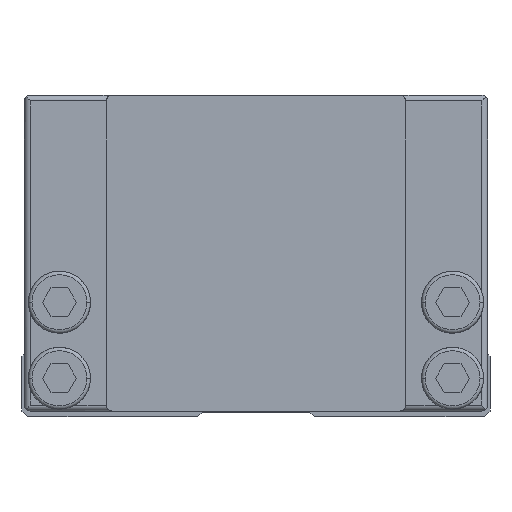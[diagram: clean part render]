
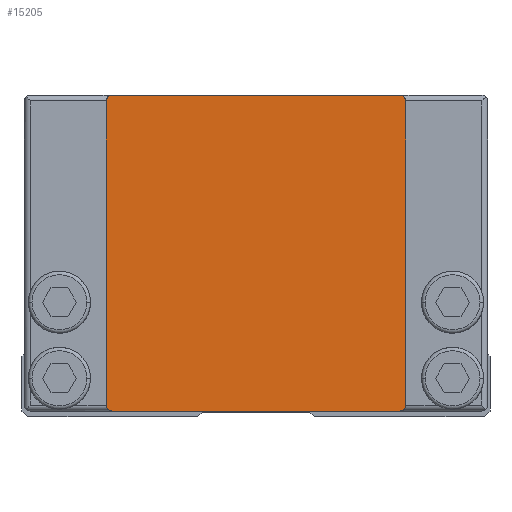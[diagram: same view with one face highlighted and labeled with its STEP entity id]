
A CAD part, front view. The second image highlights one B-rep face of the part: STEP entity #15205.
In plain terms, the highlighted planar face has unit normal (0, -1, 0).
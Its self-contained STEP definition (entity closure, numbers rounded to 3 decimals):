
#5735=VERTEX_POINT('',#16909);
#6343=EDGE_CURVE('',#9439,#7209,#17580,.T.);
#6471=EDGE_CURVE('',#13197,#9789,#17726,.T.);
#7153=VERTEX_POINT('',#18483);
#7209=VERTEX_POINT('',#18548);
#7341=EDGE_CURVE('',#9789,#9363,#18697,.T.);
#7923=EDGE_CURVE('',#7209,#11765,#19348,.T.);
#9191=EDGE_CURVE('',#11765,#7153,#20738,.T.);
#9363=VERTEX_POINT('',#20922);
#9439=VERTEX_POINT('',#21006);
#9789=VERTEX_POINT('',#21388);
#11765=VERTEX_POINT('',#23570);
#12249=EDGE_CURVE('',#5735,#13197,#24121,.T.);
#13197=VERTEX_POINT('',#25171);
#13445=EDGE_CURVE('',#9363,#9439,#25443,.T.);
#13761=EDGE_CURVE('',#7153,#5735,#25786,.T.);
#15205=ADVANCED_FACE('',(#27361),#27362,.T.);
#16909=CARTESIAN_POINT('',(12.8,0.0,1.0));
#17580=CIRCLE('',#30484,0.5);
#17726=LINE('',#30671,#30672);
#18483=CARTESIAN_POINT('',(12.8,0.0,27.0));
#18548=CARTESIAN_POINT('',(-12.3,0.0,27.5));
#18697=CIRCLE('',#32048,0.5);
#19348=LINE('',#32962,#32963);
#20738=CIRCLE('',#34937,0.5);
#20922=CARTESIAN_POINT('',(-12.8,0.0,1.0));
#21006=CARTESIAN_POINT('',(-12.8,0.0,27.0));
#21388=CARTESIAN_POINT('',(-12.3,0.0,0.5));
#23570=CARTESIAN_POINT('',(12.3,0.0,27.5));
#24121=CIRCLE('',#40000,0.5);
#25171=CARTESIAN_POINT('',(12.3,0.0,0.5));
#25443=LINE('',#41955,#41956);
#25786=LINE('',#42502,#42503);
#27361=FACE_OUTER_BOUND('',#44710,.T.);
#27362=PLANE('',#44711);
#30484=AXIS2_PLACEMENT_3D('',#47984,#47985,#47986);
#30671=CARTESIAN_POINT('',(-12.3,0.0,0.5));
#30672=VECTOR('',#48206,1.0);
#32048=AXIS2_PLACEMENT_3D('',#49387,#49388,#49389);
#32962=CARTESIAN_POINT('',(12.3,0.0,27.5));
#32963=VECTOR('',#50191,1.0);
#34937=AXIS2_PLACEMENT_3D('',#51748,#51749,#51750);
#40000=AXIS2_PLACEMENT_3D('',#55524,#55525,#55526);
#41955=CARTESIAN_POINT('',(-12.8,0.0,27.0));
#41956=VECTOR('',#57023,1.0);
#42502=CARTESIAN_POINT('',(12.8,0.0,1.0));
#42503=VECTOR('',#57366,1.0);
#44710=EDGE_LOOP('',(#59046,#59047,#59048,#59049,#59050,#59051,#59052,#59053));
#44711=AXIS2_PLACEMENT_3D('',#59054,#59055,#59056);
#47984=CARTESIAN_POINT('',(-12.3,0.0,27.0));
#47985=DIRECTION('',(0.0,1.0,-0.0));
#47986=DIRECTION('',(0.,0.0,1.0));
#48206=DIRECTION('',(-1.0,0.0,-0.0));
#49387=CARTESIAN_POINT('',(-12.3,0.0,1.));
#49388=DIRECTION('',(0.0,1.0,-0.0));
#49389=DIRECTION('',(-1.0,0.0,0.));
#50191=DIRECTION('',(1.0,0.0,0.0));
#51748=CARTESIAN_POINT('',(12.3,0.0,27.0));
#51749=DIRECTION('',(-0.0,1.0,0.0));
#51750=DIRECTION('',(1.0,0.0,0.));
#55524=CARTESIAN_POINT('',(12.3,0.0,1.));
#55525=DIRECTION('',(-0.0,1.0,0.0));
#55526=DIRECTION('',(0.0,0.0,-1.0));
#57023=DIRECTION('',(0.0,0.0,1.0));
#57366=DIRECTION('',(-0.0,0.0,-1.0));
#59046=ORIENTED_EDGE('',*,*,#13445,.F.);
#59047=ORIENTED_EDGE('',*,*,#7341,.F.);
#59048=ORIENTED_EDGE('',*,*,#6471,.F.);
#59049=ORIENTED_EDGE('',*,*,#12249,.F.);
#59050=ORIENTED_EDGE('',*,*,#13761,.F.);
#59051=ORIENTED_EDGE('',*,*,#9191,.F.);
#59052=ORIENTED_EDGE('',*,*,#7923,.F.);
#59053=ORIENTED_EDGE('',*,*,#6343,.F.);
#59054=CARTESIAN_POINT('',(0.,0.0,14.0));
#59055=DIRECTION('',(0.0,-1.0,0.0));
#59056=DIRECTION('',(1.0,0.0,0.0));
